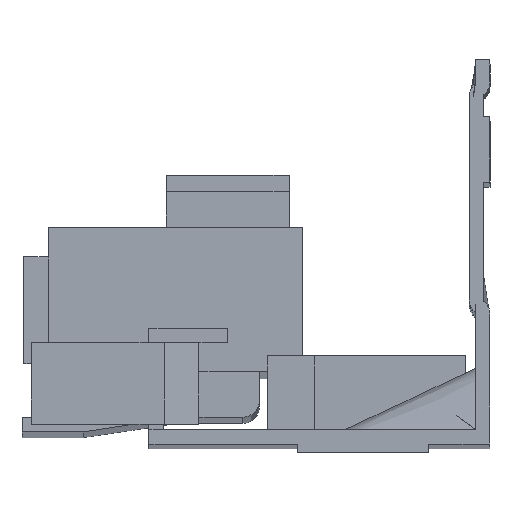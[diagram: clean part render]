
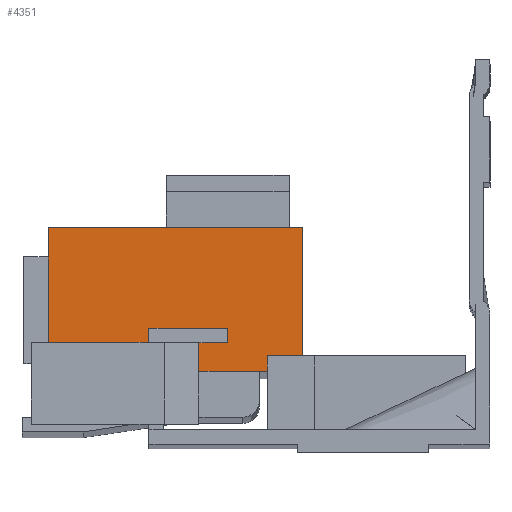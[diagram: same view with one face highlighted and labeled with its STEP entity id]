
A CAD part, front view. The second image highlights one B-rep face of the part: STEP entity #4351.
In plain terms, the highlighted planar face has unit normal (0, -1, 0).
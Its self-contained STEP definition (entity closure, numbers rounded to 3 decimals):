
#10 = VERTEX_POINT ( 'NONE', #283 ) ;
#172 = VERTEX_POINT ( 'NONE', #445 ) ;
#173 = VERTEX_POINT ( 'NONE', #446 ) ;
#174 = VERTEX_POINT ( 'NONE', #447 ) ;
#179 = VERTEX_POINT ( 'NONE', #452 ) ;
#180 = VERTEX_POINT ( 'NONE', #453 ) ;
#189 = VERTEX_POINT ( 'NONE', #462 ) ;
#190 = VERTEX_POINT ( 'NONE', #463 ) ;
#191 = VERTEX_POINT ( 'NONE', #464 ) ;
#250 = VERTEX_POINT ( 'NONE', #523 ) ;
#257 = VERTEX_POINT ( 'NONE', #530 ) ;
#258 = VERTEX_POINT ( 'NONE', #531 ) ;
#283 = CARTESIAN_POINT ( 'NONE',  ( -35.5, -20., -27.058 ) ) ;
#445 = CARTESIAN_POINT ( 'NONE',  ( -32., -20., -21.858 ) ) ;
#446 = CARTESIAN_POINT ( 'NONE',  ( -35.5, -20., -23.608 ) ) ;
#447 = CARTESIAN_POINT ( 'NONE',  ( -32., -20., -23.608 ) ) ;
#452 = CARTESIAN_POINT ( 'NONE',  ( -41.6, -20., -23.558 ) ) ;
#453 = CARTESIAN_POINT ( 'NONE',  ( -22.9, -20., -25.181 ) ) ;
#462 = CARTESIAN_POINT ( 'NONE',  ( -41.6, -20., -21.858 ) ) ;
#463 = CARTESIAN_POINT ( 'NONE',  ( -27.15, -20., -25.181 ) ) ;
#464 = CARTESIAN_POINT ( 'NONE',  ( -27.15, -20., -27.058 ) ) ;
#523 = CARTESIAN_POINT ( 'NONE',  ( -53.9, -20., -23.558 ) ) ;
#530 = CARTESIAN_POINT ( 'NONE',  ( -53.9, -20., -9.558 ) ) ;
#531 = CARTESIAN_POINT ( 'NONE',  ( -22.9, -20., -9.558 ) ) ;
#675 = CARTESIAN_POINT ( 'NONE',  ( -35.5, -20., -27.058 ) ) ;
#676 = DIRECTION ( 'NONE',  ( 0., 0., -1. ) ) ;
#677 = CARTESIAN_POINT ( 'NONE',  ( -32., -20., -23.608 ) ) ;
#678 = DIRECTION ( 'NONE',  ( 1., 0., 0. ) ) ;
#679 = CARTESIAN_POINT ( 'NONE',  ( -32., -20., -21.831 ) ) ;
#680 = DIRECTION ( 'NONE',  ( 0., 0., 1. ) ) ;
#681 = CARTESIAN_POINT ( 'NONE',  ( -41.6, -20., -21.858 ) ) ;
#682 = DIRECTION ( 'NONE',  ( -1., 0., 0. ) ) ;
#683 = CARTESIAN_POINT ( 'NONE',  ( -22.9, -20., -27.058 ) ) ;
#684 = DIRECTION ( 'NONE',  ( 0., 0., 1. ) ) ;
#685 = CARTESIAN_POINT ( 'NONE',  ( -49.9, -20., -25.181 ) ) ;
#686 = DIRECTION ( 'NONE',  ( 1., 0., 0. ) ) ;
#687 = CARTESIAN_POINT ( 'NONE',  ( -27.15, -20., -27.058 ) ) ;
#688 = DIRECTION ( 'NONE',  ( 0., 0., 1. ) ) ;
#689 = CARTESIAN_POINT ( 'NONE',  ( -49.9, -20., -27.058 ) ) ;
#690 = DIRECTION ( 'NONE',  ( 1., 0., 0. ) ) ;
#703 = CARTESIAN_POINT ( 'NONE',  ( -41.6, -20., -35.931 ) ) ;
#704 = DIRECTION ( 'NONE',  ( 0., 0., -1. ) ) ;
#735 = CARTESIAN_POINT ( 'NONE',  ( -49.9, -20., -23.558 ) ) ;
#736 = DIRECTION ( 'NONE',  ( -1., 0., 0. ) ) ;
#755 = CARTESIAN_POINT ( 'NONE',  ( -53.9, -20., -29.558 ) ) ;
#756 = DIRECTION ( 'NONE',  ( 0., 0., -1. ) ) ;
#783 = CARTESIAN_POINT ( 'NONE',  ( -53.9, -20., -9.558 ) ) ;
#784 = DIRECTION ( 'NONE',  ( -1., 0., 0. ) ) ;
#1107 = PLANE ( 'NONE',  #1534 ) ;
#1108 = CARTESIAN_POINT ( 'NONE',  ( -49.9, -20., -27.058 ) ) ;
#1109 = DIRECTION ( 'NONE',  ( 0., 1., 0. ) ) ;
#1110 = DIRECTION ( 'NONE',  ( -1., 0., 0. ) ) ;
#1290 = EDGE_LOOP ( 'NONE', ( #3715, #3714, #3713, #3712, #3711, #3710, #3709, #3708, #3707, #3706, #3705, #3704 ) ) ;
#1353 = EDGE_CURVE ( 'NONE', #173, #10, #3981, .T. ) ;
#1354 = EDGE_CURVE ( 'NONE', #173, #174, #3983, .T. ) ;
#1355 = EDGE_CURVE ( 'NONE', #174, #172, #3985, .T. ) ;
#1356 = EDGE_CURVE ( 'NONE', #172, #189, #3987, .T. ) ;
#1357 = EDGE_CURVE ( 'NONE', #180, #258, #3989, .T. ) ;
#1358 = EDGE_CURVE ( 'NONE', #190, #180, #3991, .T. ) ;
#1359 = EDGE_CURVE ( 'NONE', #191, #190, #3993, .T. ) ;
#1360 = EDGE_CURVE ( 'NONE', #10, #191, #3995, .T. ) ;
#1367 = EDGE_CURVE ( 'NONE', #189, #179, #4009, .T. ) ;
#1383 = EDGE_CURVE ( 'NONE', #179, #250, #4041, .T. ) ;
#1393 = EDGE_CURVE ( 'NONE', #257, #250, #4061, .T. ) ;
#1407 = EDGE_CURVE ( 'NONE', #258, #257, #4089, .T. ) ;
#1534 = AXIS2_PLACEMENT_3D ( 'NONE', #1108, #1109, #1110 ) ;
#3704 = ORIENTED_EDGE ( 'NONE', *, *, #1353, .T. ) ;
#3705 = ORIENTED_EDGE ( 'NONE', *, *, #1354, .F. ) ;
#3706 = ORIENTED_EDGE ( 'NONE', *, *, #1355, .F. ) ;
#3707 = ORIENTED_EDGE ( 'NONE', *, *, #1356, .F. ) ;
#3708 = ORIENTED_EDGE ( 'NONE', *, *, #1367, .F. ) ;
#3709 = ORIENTED_EDGE ( 'NONE', *, *, #1383, .F. ) ;
#3710 = ORIENTED_EDGE ( 'NONE', *, *, #1393, .T. ) ;
#3711 = ORIENTED_EDGE ( 'NONE', *, *, #1407, .T. ) ;
#3712 = ORIENTED_EDGE ( 'NONE', *, *, #1357, .T. ) ;
#3713 = ORIENTED_EDGE ( 'NONE', *, *, #1358, .T. ) ;
#3714 = ORIENTED_EDGE ( 'NONE', *, *, #1359, .T. ) ;
#3715 = ORIENTED_EDGE ( 'NONE', *, *, #1360, .T. ) ;
#3981 = LINE ( 'NONE', #675, #3982 ) ;
#3982 = VECTOR ( 'NONE', #676, 1000. ) ;
#3983 = LINE ( 'NONE', #677, #3984 ) ;
#3984 = VECTOR ( 'NONE', #678, 1000. ) ;
#3985 = LINE ( 'NONE', #679, #3986 ) ;
#3986 = VECTOR ( 'NONE', #680, 1000. ) ;
#3987 = LINE ( 'NONE', #681, #3988 ) ;
#3988 = VECTOR ( 'NONE', #682, 1000. ) ;
#3989 = LINE ( 'NONE', #683, #3990 ) ;
#3990 = VECTOR ( 'NONE', #684, 1000. ) ;
#3991 = LINE ( 'NONE', #685, #3992 ) ;
#3992 = VECTOR ( 'NONE', #686, 1000. ) ;
#3993 = LINE ( 'NONE', #687, #3994 ) ;
#3994 = VECTOR ( 'NONE', #688, 1000. ) ;
#3995 = LINE ( 'NONE', #689, #3996 ) ;
#3996 = VECTOR ( 'NONE', #690, 1000. ) ;
#4009 = LINE ( 'NONE', #703, #4010 ) ;
#4010 = VECTOR ( 'NONE', #704, 1000. ) ;
#4041 = LINE ( 'NONE', #735, #4042 ) ;
#4042 = VECTOR ( 'NONE', #736, 1000. ) ;
#4061 = LINE ( 'NONE', #755, #4062 ) ;
#4062 = VECTOR ( 'NONE', #756, 1000. ) ;
#4089 = LINE ( 'NONE', #783, #4090 ) ;
#4090 = VECTOR ( 'NONE', #784, 1000. ) ;
#4302 = FACE_OUTER_BOUND ( 'NONE', #1290, .T. ) ;
#4351 = ADVANCED_FACE ( 'NONE', ( #4302 ), #1107, .F. ) ;
